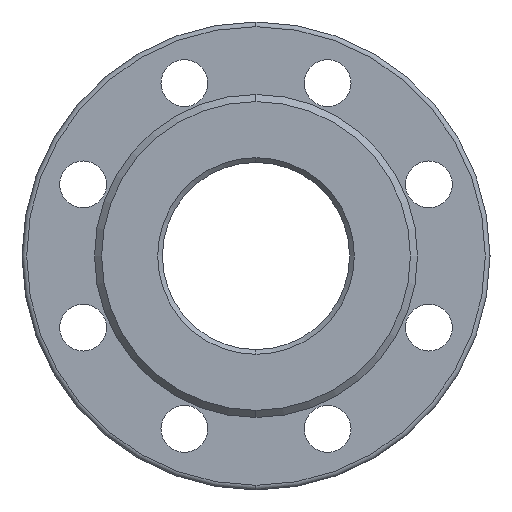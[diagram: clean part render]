
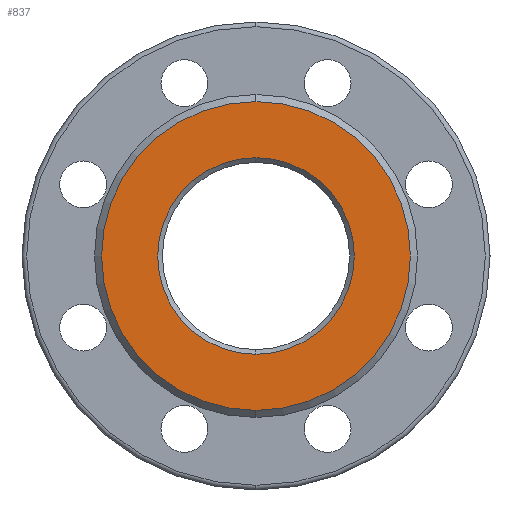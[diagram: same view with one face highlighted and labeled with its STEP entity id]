
A CAD part, left-side view. The second image highlights one B-rep face of the part: STEP entity #837.
In plain terms, the highlighted planar face has unit normal (-1, 0, 0).
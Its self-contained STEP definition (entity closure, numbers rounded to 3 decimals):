
#81 = EDGE_CURVE ( 'Defeatured_0_3+Defeatured_0_4+Defeatured_0_4+Defeatured_0_4', #4260, #1279, #2340, .T. ) ;
#130 = CARTESIAN_POINT ( 'NONE',  ( -350., 0., 42. ) ) ;
#131 = VERTEX_POINT ( 'NONE', #130 ) ;
#234 = AXIS2_PLACEMENT_3D ( 'NONE', #3377, #2326, #2669 ) ;
#242 = DIRECTION ( 'NONE',  ( 0., 0., -1. ) ) ;
#302 = CIRCLE ( 'NONE', #442, 42. ) ;
#370 = ORIENTED_EDGE ( 'NONE', *, *, #1200, .T. ) ;
#438 = ORIENTED_EDGE ( 'NONE', *, *, #81, .T. ) ;
#442 = AXIS2_PLACEMENT_3D ( 'NONE', #3408, #1212, #242 ) ;
#450 = CIRCLE ( 'NONE', #234, 66. ) ;
#549 = DIRECTION ( 'NONE',  ( 0., 0., -1. ) ) ;
#607 = CARTESIAN_POINT ( 'NONE',  ( -350., 40., 0. ) ) ;
#661 = AXIS2_PLACEMENT_3D ( 'NONE', #4234, #3666, #2196 ) ;
#671 = CIRCLE ( 'NONE', #3234, 42. ) ;
#837 = ADVANCED_FACE ( 'Defeatured_0_3', ( #2963, #3737 ), #978, .F. ) ;
#978 = PLANE ( 'NONE',  #4185 ) ;
#1176 = EDGE_LOOP ( 'NONE', ( #2769, #370 ) ) ;
#1200 = EDGE_CURVE ( 'Defeatured_0_3+Defeatured_0_20+Defeatured_0_20+Defeatured_0_20', #4350, #131, #302, .T. ) ;
#1212 = DIRECTION ( 'NONE',  ( 1., 0., 0. ) ) ;
#1279 = VERTEX_POINT ( 'NONE', #3105 ) ;
#1993 = DIRECTION ( 'NONE',  ( 1., 0., 0. ) ) ;
#2009 = ORIENTED_EDGE ( 'NONE', *, *, #2621, .T. ) ;
#2110 = CARTESIAN_POINT ( 'NONE',  ( -350., 0., -42. ) ) ;
#2177 = EDGE_LOOP ( 'NONE', ( #438, #2009 ) ) ;
#2196 = DIRECTION ( 'NONE',  ( 0., 0., 1. ) ) ;
#2326 = DIRECTION ( 'NONE',  ( -1., 0., 0. ) ) ;
#2340 = CIRCLE ( 'NONE', #661, 66. ) ;
#2621 = EDGE_CURVE ( 'Defeatured_0_3+Defeatured_0_4+Defeatured_0_4+Defeatured_0_4', #1279, #4260, #450, .T. ) ;
#2669 = DIRECTION ( 'NONE',  ( 0., 0., 1. ) ) ;
#2769 = ORIENTED_EDGE ( 'NONE', *, *, #3451, .T. ) ;
#2963 = FACE_BOUND ( 'NONE', #1176, .T. ) ;
#3073 = DIRECTION ( 'NONE',  ( 1., 0., 0. ) ) ;
#3105 = CARTESIAN_POINT ( 'NONE',  ( -350., 0., 66. ) ) ;
#3234 = AXIS2_PLACEMENT_3D ( 'NONE', #4499, #3073, #549 ) ;
#3377 = CARTESIAN_POINT ( 'NONE',  ( -350., 0., 0. ) ) ;
#3408 = CARTESIAN_POINT ( 'NONE',  ( -350., 0., 0. ) ) ;
#3451 = EDGE_CURVE ( 'Defeatured_0_3+Defeatured_0_20+Defeatured_0_20+Defeatured_0_20', #131, #4350, #671, .T. ) ;
#3666 = DIRECTION ( 'NONE',  ( -1., 0., 0. ) ) ;
#3701 = CARTESIAN_POINT ( 'NONE',  ( -350., 0., -66. ) ) ;
#3737 = FACE_OUTER_BOUND ( 'NONE', #2177, .T. ) ;
#3790 = DIRECTION ( 'NONE',  ( 0., 0., -1. ) ) ;
#4185 = AXIS2_PLACEMENT_3D ( 'NONE', #607, #1993, #3790 ) ;
#4234 = CARTESIAN_POINT ( 'NONE',  ( -350., 0., 0. ) ) ;
#4260 = VERTEX_POINT ( 'NONE', #3701 ) ;
#4350 = VERTEX_POINT ( 'NONE', #2110 ) ;
#4499 = CARTESIAN_POINT ( 'NONE',  ( -350., 0., 0. ) ) ;
